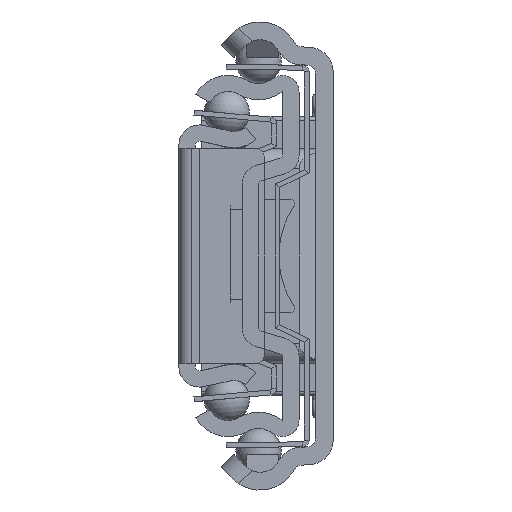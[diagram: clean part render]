
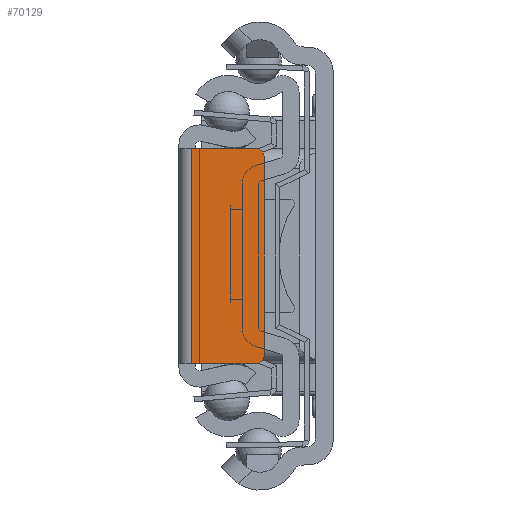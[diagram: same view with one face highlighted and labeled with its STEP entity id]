
A CAD part, left-side view. The second image highlights one B-rep face of the part: STEP entity #70129.
In plain terms, the highlighted planar face has unit normal (-1, 0, 0).
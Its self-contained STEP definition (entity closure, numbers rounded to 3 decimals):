
#66578=DIRECTION('',(0.,-1.,0.));
#66579=VECTOR('',#66578,8.);
#66580=CARTESIAN_POINT('',(0.,-1.,-13.25));
#66581=LINE('',#66580,#66579);
#66604=CARTESIAN_POINT('',(0.,-9.,-12.25));
#66605=DIRECTION('',(-1.,0.,0.));
#66606=DIRECTION('',(0.,0.,-1.));
#66607=AXIS2_PLACEMENT_3D('',#66604,#66605,#66606);
#66609=DIRECTION('',(0.,0.,-1.));
#66610=VECTOR('',#66609,26.5);
#66611=CARTESIAN_POINT('',(0.,-1.,13.25));
#66612=LINE('',#66611,#66610);
#66613=DIRECTION('',(0.,-1.,0.));
#66614=VECTOR('',#66613,8.);
#66615=CARTESIAN_POINT('',(0.,-1.,13.25));
#66616=LINE('',#66615,#66614);
#66617=CARTESIAN_POINT('',(0.,-9.,12.25));
#66618=DIRECTION('',(-1.,0.,0.));
#66619=DIRECTION('',(0.,-1.,0.));
#66620=AXIS2_PLACEMENT_3D('',#66617,#66618,#66619);
#66622=DIRECTION('',(0.,0.,1.));
#66623=VECTOR('',#66622,24.5);
#66624=CARTESIAN_POINT('',(0.,-10.,-12.25));
#66625=LINE('',#66624,#66623);
#68987=CARTESIAN_POINT('',(0.,-10.,-12.25));
#68988=CARTESIAN_POINT('',(0.,-10.,12.25));
#68989=VERTEX_POINT('',#68987);
#68990=VERTEX_POINT('',#68988);
#69671=CARTESIAN_POINT('',(0.,-1.,13.25));
#69672=CARTESIAN_POINT('',(0.,-1.,-13.25));
#69673=VERTEX_POINT('',#69671);
#69674=VERTEX_POINT('',#69672);
#69679=CARTESIAN_POINT('',(0.,-9.,13.25));
#69680=VERTEX_POINT('',#69679);
#69689=CARTESIAN_POINT('',(0.,-9.,-13.25));
#69690=VERTEX_POINT('',#69689);
#70112=CARTESIAN_POINT('',(0.,-2.,-13.25));
#70113=DIRECTION('',(-1.,0.,0.));
#70114=DIRECTION('',(0.,-1.,0.));
#70115=AXIS2_PLACEMENT_3D('',#70112,#70113,#70114);
#70116=PLANE('',#70115);
#70118=ORIENTED_EDGE('',*,*,#70117,.F.);
#70119=ORIENTED_EDGE('',*,*,#70105,.F.);
#70120=ORIENTED_EDGE('',*,*,#70073,.F.);
#70122=ORIENTED_EDGE('',*,*,#70121,.F.);
#70124=ORIENTED_EDGE('',*,*,#70123,.T.);
#70126=ORIENTED_EDGE('',*,*,#70125,.F.);
#70127=EDGE_LOOP('',(#70118,#70119,#70120,#70122,#70124,#70126));
#70128=FACE_OUTER_BOUND('',#70127,.F.);
#66608=CIRCLE('',#66607,1.);
#66621=CIRCLE('',#66620,1.);
#70073=EDGE_CURVE('',#69674,#69690,#66581,.T.);
#70105=EDGE_CURVE('',#69690,#68989,#66608,.T.);
#70117=EDGE_CURVE('',#68989,#68990,#66625,.T.);
#70121=EDGE_CURVE('',#69673,#69674,#66612,.T.);
#70123=EDGE_CURVE('',#69673,#69680,#66616,.T.);
#70125=EDGE_CURVE('',#68990,#69680,#66621,.T.);
#70129=ADVANCED_FACE('',(#70128),#70116,.T.);
